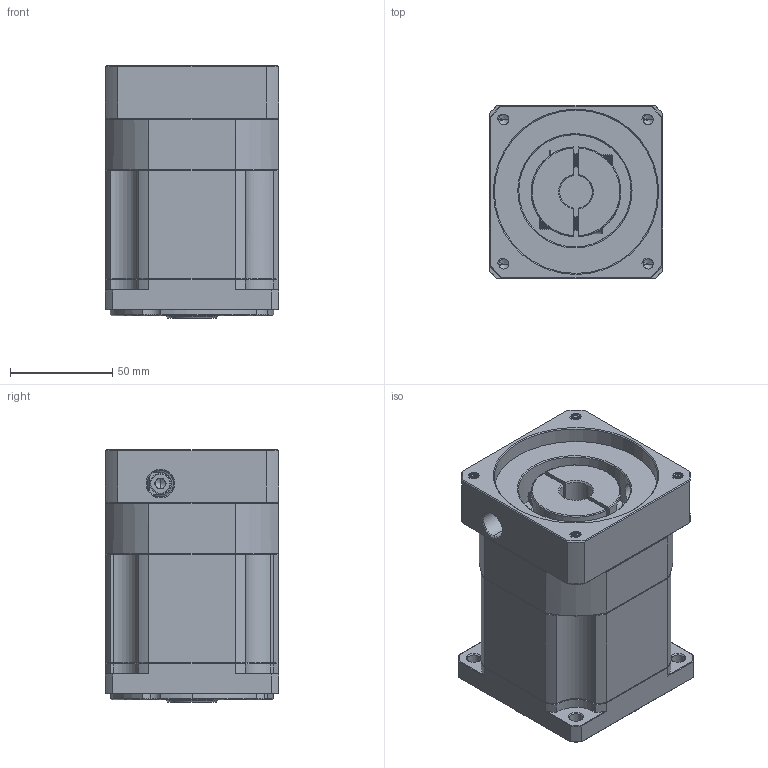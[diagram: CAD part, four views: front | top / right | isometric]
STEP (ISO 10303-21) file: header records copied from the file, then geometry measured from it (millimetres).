
FILE_DESCRIPTION (( 'STEP AP214' ), '1' );
FILE_NAME ('ZB90-K15-L2-16-80-100-M6.STEP', '2022-05-02T15:38:41', ( '' ), ( 'Microsoft' ), 'SwSTEP 2.0', 'SolidWorks 2016', '' );
FILE_SCHEMA (( 'AUTOMOTIVE_DESIGN' ));
Length unit declared in the file: millimetre
Products named in the file (1): ZB90-K15-L2-16-80-100-M6
Bounding box: 85 x 85 x 123.5 mm (x, y, z)
Volume: 703081.9 mm3; surface area: 90777.3 mm2
Topology: 4 solids, 5 shells, 1881 faces, 4913 edges, 3111 vertices
Faces by surface type: plane 879, cylinder 358, cone 327, bspline 292, torus 25
Entity records: 98937 total; most frequent: CARTESIAN_POINT 34519, ORIENTED_EDGE 9786, DIRECTION 7990, EDGE_CURVE 4893, VERTEX_POINT 3111, VECTOR 3044, LINE 3044, AXIS2_PLACEMENT_3D 2473
